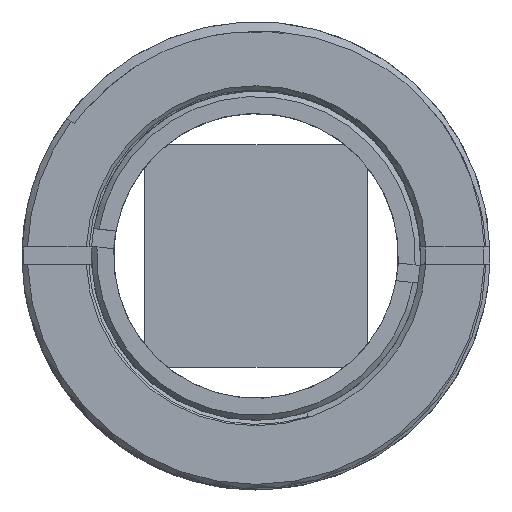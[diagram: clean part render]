
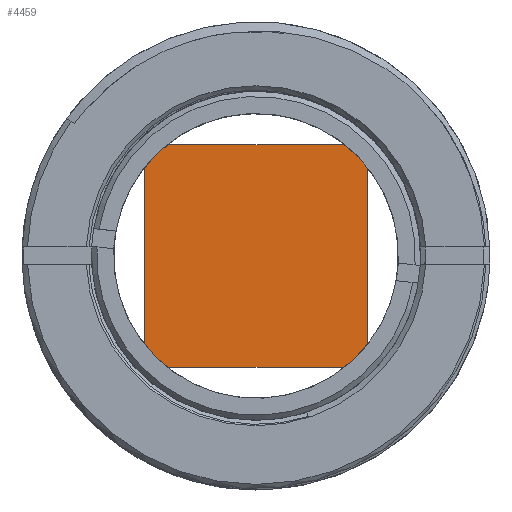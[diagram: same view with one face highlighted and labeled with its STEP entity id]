
A CAD part, top view. The second image highlights one B-rep face of the part: STEP entity #4459.
In plain terms, the highlighted planar face has unit normal (0, 0, 1).
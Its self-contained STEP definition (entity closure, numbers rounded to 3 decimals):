
#817 = DIRECTION ( 'NONE',  ( 0., -1., 0. ) ) ;
#998 = ORIENTED_EDGE ( 'NONE', *, *, #10160, .T. ) ;
#1739 = VECTOR ( 'NONE', #5818, 1000. ) ;
#2232 = VERTEX_POINT ( 'NONE', #8478 ) ;
#2444 = CARTESIAN_POINT ( 'NONE',  ( -6.25, 6.25, 0.7 ) ) ;
#2967 = CARTESIAN_POINT ( 'NONE',  ( -6.25, 6.25, 0.7 ) ) ;
#4115 = CARTESIAN_POINT ( 'NONE',  ( -6.25, 6.25, 0.7 ) ) ;
#4459 = ADVANCED_FACE ( 'NONE', ( #7022 ), #11491, .T. ) ;
#4503 = LINE ( 'NONE', #2444, #1739 ) ;
#4697 = VECTOR ( 'NONE', #4794, 1000. ) ;
#4794 = DIRECTION ( 'NONE',  ( 0., 1., 0. ) ) ;
#5205 = LINE ( 'NONE', #4115, #8070 ) ;
#5227 = ORIENTED_EDGE ( 'NONE', *, *, #13077, .T. ) ;
#5271 = CARTESIAN_POINT ( 'NONE',  ( -6.25, -6.25, 0.7 ) ) ;
#5413 = LINE ( 'NONE', #5271, #11333 ) ;
#5818 = DIRECTION ( 'NONE',  ( -1., 0., 0. ) ) ;
#5888 = EDGE_CURVE ( 'NONE', #6714, #9824, #8187, .T. ) ;
#6116 = CARTESIAN_POINT ( 'NONE',  ( 6.25, 6.25, 0.7 ) ) ;
#6293 = VERTEX_POINT ( 'NONE', #2967 ) ;
#6714 = VERTEX_POINT ( 'NONE', #10156 ) ;
#7022 = FACE_OUTER_BOUND ( 'NONE', #12879, .T. ) ;
#7049 = CARTESIAN_POINT ( 'NONE',  ( 6.25, 6.25, 0.7 ) ) ;
#8070 = VECTOR ( 'NONE', #817, 1000. ) ;
#8187 = LINE ( 'NONE', #6116, #4697 ) ;
#8478 = CARTESIAN_POINT ( 'NONE',  ( -6.25, -6.25, 0.7 ) ) ;
#8898 = ORIENTED_EDGE ( 'NONE', *, *, #5888, .T. ) ;
#9237 = ORIENTED_EDGE ( 'NONE', *, *, #13355, .T. ) ;
#9292 = CARTESIAN_POINT ( 'NONE',  ( 0., 0., 0.7 ) ) ;
#9824 = VERTEX_POINT ( 'NONE', #7049 ) ;
#10156 = CARTESIAN_POINT ( 'NONE',  ( 6.25, -6.25, 0.7 ) ) ;
#10160 = EDGE_CURVE ( 'NONE', #2232, #6714, #5413, .T. ) ;
#11333 = VECTOR ( 'NONE', #13058, 1000. ) ;
#11346 = AXIS2_PLACEMENT_3D ( 'NONE', #9292, #13762, #11560 ) ;
#11491 = PLANE ( 'NONE',  #11346 ) ;
#11560 = DIRECTION ( 'NONE',  ( 1., 0., 0. ) ) ;
#12879 = EDGE_LOOP ( 'NONE', ( #8898, #5227, #9237, #998 ) ) ;
#13058 = DIRECTION ( 'NONE',  ( 1., 0., 0. ) ) ;
#13077 = EDGE_CURVE ( 'NONE', #9824, #6293, #4503, .T. ) ;
#13355 = EDGE_CURVE ( 'NONE', #6293, #2232, #5205, .T. ) ;
#13762 = DIRECTION ( 'NONE',  ( 0., 0., 1. ) ) ;
